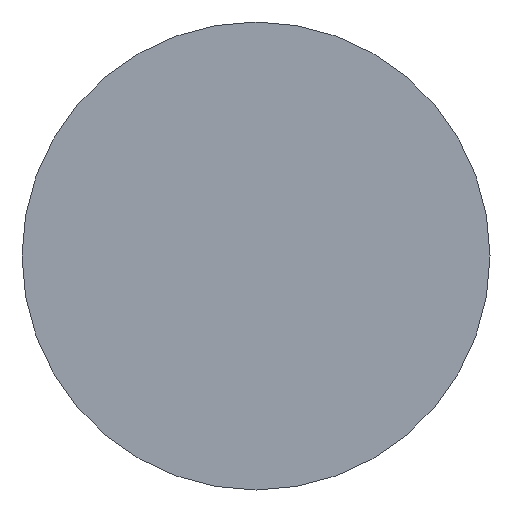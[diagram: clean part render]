
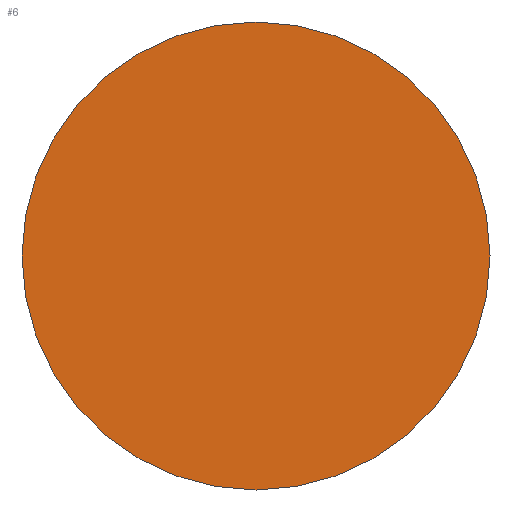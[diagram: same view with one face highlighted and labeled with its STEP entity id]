
A CAD part, front view. The second image highlights one B-rep face of the part: STEP entity #6.
In plain terms, the highlighted planar face has unit normal (0, -1, 0).
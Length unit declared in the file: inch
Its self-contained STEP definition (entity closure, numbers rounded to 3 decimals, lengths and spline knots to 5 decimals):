
#6 = ADVANCED_FACE ( 'NONE', ( #72 ), #150, .F. ) ;
#39 = ORIENTED_EDGE ( 'NONE', *, *, #177, .F. ) ;
#42 = EDGE_LOOP ( 'NONE', ( #61, #39 ) ) ;
#61 = ORIENTED_EDGE ( 'NONE', *, *, #180, .F. ) ;
#72 = FACE_OUTER_BOUND ( 'NONE', #42, .T. ) ;
#73 = CIRCLE ( 'NONE', #111, 0.345 ) ;
#86 = CIRCLE ( 'NONE', #112, 0.345 ) ;
#111 = AXIS2_PLACEMENT_3D ( 'NONE', #165, #169, #170 ) ;
#112 = AXIS2_PLACEMENT_3D ( 'NONE', #200, #199, #201 ) ;
#140 = VERTEX_POINT ( 'NONE', #166 ) ;
#147 = CARTESIAN_POINT ( 'NONE',  ( 0., 0., 0. ) ) ;
#149 = DIRECTION ( 'NONE',  ( 0., 1., 0. ) ) ;
#150 = PLANE ( 'NONE',  #193 ) ;
#151 = DIRECTION ( 'NONE',  ( 0., 0., 1. ) ) ;
#165 = CARTESIAN_POINT ( 'NONE',  ( 0., 0., 0. ) ) ;
#166 = CARTESIAN_POINT ( 'NONE',  ( 0., 0., -0.345 ) ) ;
#168 = CARTESIAN_POINT ( 'NONE',  ( 0., 0., 0.345 ) ) ;
#169 = DIRECTION ( 'NONE',  ( 0., 1., 0. ) ) ;
#170 = DIRECTION ( 'NONE',  ( 0., 0., 1. ) ) ;
#174 = VERTEX_POINT ( 'NONE', #168 ) ;
#177 = EDGE_CURVE ( 'NONE', #174, #140, #73, .T. ) ;
#180 = EDGE_CURVE ( 'NONE', #140, #174, #86, .T. ) ;
#193 = AXIS2_PLACEMENT_3D ( 'NONE', #147, #149, #151 ) ;
#199 = DIRECTION ( 'NONE',  ( 0., 1., 0. ) ) ;
#200 = CARTESIAN_POINT ( 'NONE',  ( 0., 0., 0. ) ) ;
#201 = DIRECTION ( 'NONE',  ( 0., 0., 1. ) ) ;
